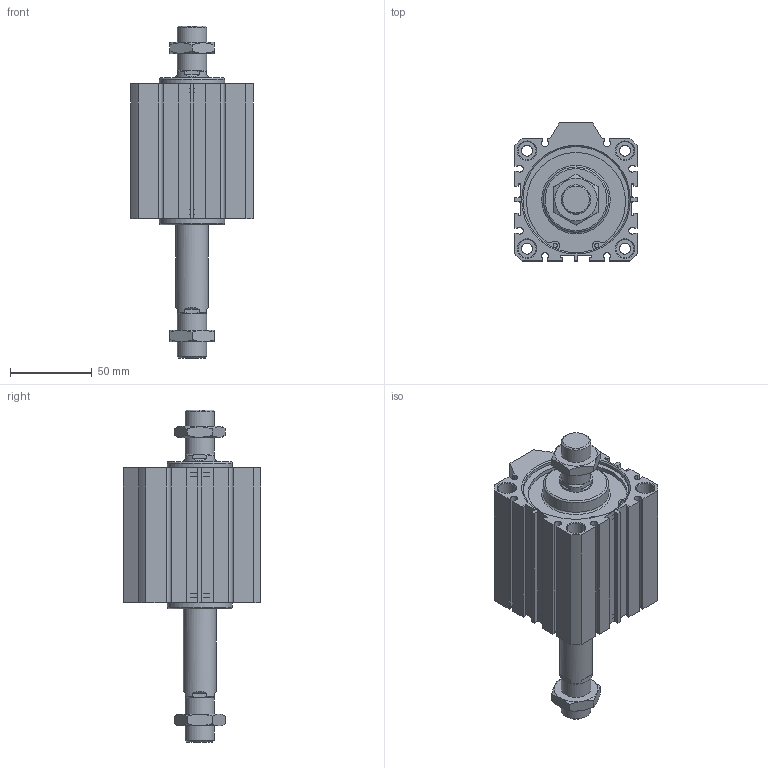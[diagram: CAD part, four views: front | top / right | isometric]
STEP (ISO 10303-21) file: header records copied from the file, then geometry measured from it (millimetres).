
FILE_DESCRIPTION((''),'2;1');
FILE_NAME('I:\3D電子目錄\氣缸\JDD\JDD-B\JDD63-B\JDD63x50-B.stp','2007-02-13T15:50:41',('662F206'),(''),'Autodesk Inventor 10','Autodesk Inventor 10','');
FILE_SCHEMA(('AUTOMOTIVE_DESIGN { 1 0 10303 214 1 1 1 1 }'));
Length unit declared in the file: millimetre
Products named in the file (3): JDD63-B; R 形環 65
Assembly tree (3 placements, depth 2):
  JDD63-B
    JDD63-B
    R 形環 65  x2
Bounding box: 75 x 84.5 x 203.5 mm (x, y, z)
Volume: 466064.7 mm3; surface area: 74476.6 mm2
Topology: 3 solids, 3 shells, 230 faces, 558 edges, 360 vertices
Faces by surface type: plane 132, cylinder 56, cone 38, bspline 2, torus 2
Full cylindrical faces by diameter (mm): 2.7 x4, 3 x2, 6.8 x4, 11 x8, 18 x4, 20 x2, 40 x2, 65 x4, 68 x2
Entity records: 6147 total; most frequent: CARTESIAN_POINT 1216, DIRECTION 1012, ORIENTED_EDGE 936, EDGE_CURVE 468, AXIS2_PLACEMENT_3D 374, VERTEX_POINT 332, EDGE_LOOP 308, VECTOR 264
